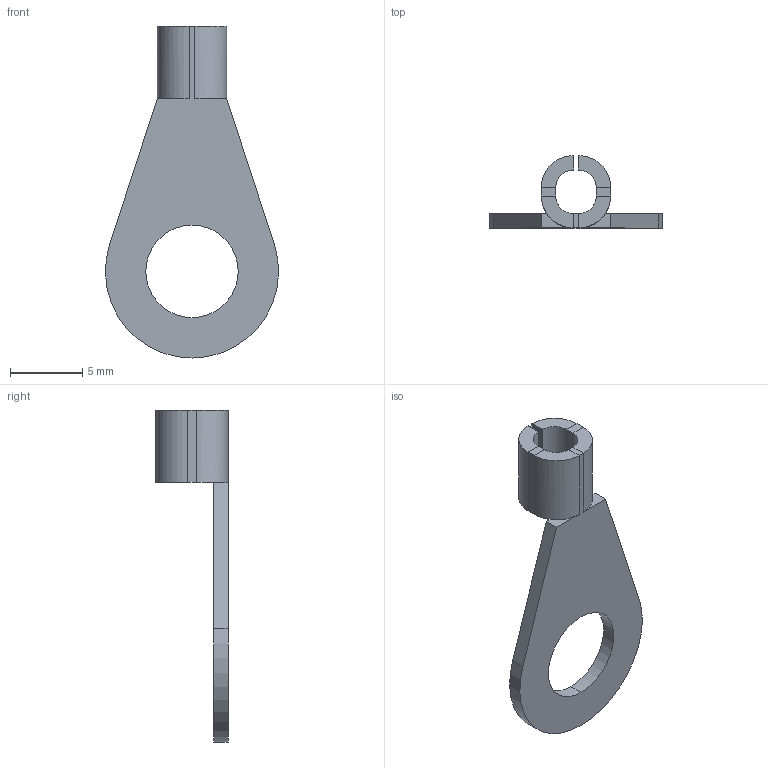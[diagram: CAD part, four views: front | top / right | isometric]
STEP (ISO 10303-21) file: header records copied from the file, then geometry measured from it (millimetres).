
FILE_DESCRIPTION (( 'STEP AP214' ), '1' );
FILE_NAME ('2,5-6-ﾊ-ﾋﾒ-08.STEP', '2013-04-05T11:59:25', ( 'Tester2' ), ( '' ), 'SwSTEP 2.0', 'SolidWorks 2012', '' );
FILE_SCHEMA (( 'AUTOMOTIVE_DESIGN' ));
Length unit declared in the file: millimetre
Products named in the file (1): 2,5-6-ﾊ-ﾋﾒ-08
Bounding box: 12 x 5 x 23 mm (x, y, z)
Volume: 190.4 mm3; surface area: 478.5 mm2
Topology: 1 solids, 1 shells, 44 faces, 96 edges, 54 vertices
Faces by surface type: plane 33, cylinder 11
Entity records: 1202 total; most frequent: DIRECTION 210, CARTESIAN_POINT 195, ORIENTED_EDGE 192, EDGE_CURVE 96, LINE 72, VECTOR 72, AXIS2_PLACEMENT_3D 69, VERTEX_POINT 54
